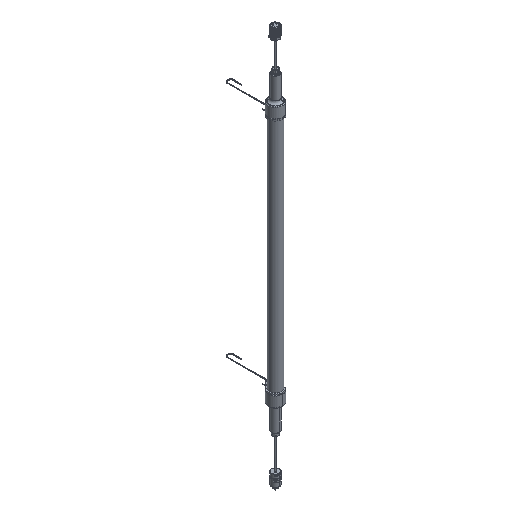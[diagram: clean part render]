
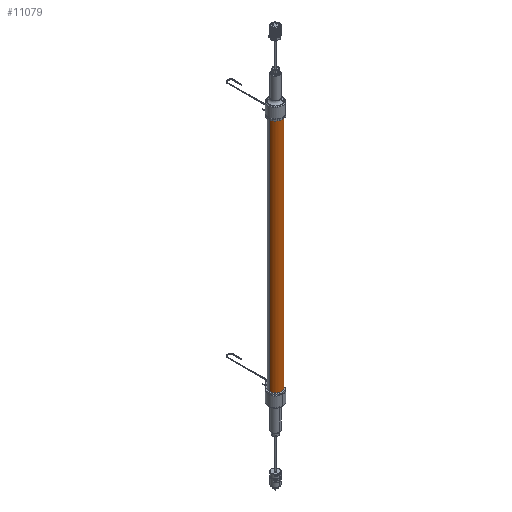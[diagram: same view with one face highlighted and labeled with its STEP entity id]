
A CAD part, isometric view. The second image highlights one B-rep face of the part: STEP entity #11079.
In plain terms, the highlighted cylindrical face has radius 28.575 mm (diameter 57.15 mm), a partial arc.
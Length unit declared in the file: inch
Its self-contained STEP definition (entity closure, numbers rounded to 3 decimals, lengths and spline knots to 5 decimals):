
#1009 = CARTESIAN_POINT ( 'NONE',  ( 1.125, 0., 49. ) ) ;
#1128 = VERTEX_POINT ( 'NONE', #1009 ) ;
#1887 = DIRECTION ( 'NONE',  ( 0., 0., 1. ) ) ;
#2344 = DIRECTION ( 'NONE',  ( 0., 0., -1. ) ) ;
#3478 = DIRECTION ( 'NONE',  ( 0., 0., -1. ) ) ;
#3486 = DIRECTION ( 'NONE',  ( 0., 0., -1. ) ) ;
#4939 = AXIS2_PLACEMENT_3D ( 'NONE', #5945, #3486, #27917 ) ;
#5945 = CARTESIAN_POINT ( 'NONE',  ( 0., 0., 49. ) ) ;
#6404 = CYLINDRICAL_SURFACE ( 'NONE', #4939, 1.125 ) ;
#7849 = AXIS2_PLACEMENT_3D ( 'NONE', #27319, #12600, #29776 ) ;
#9813 = LINE ( 'NONE', #13298, #22067 ) ;
#10681 = LINE ( 'NONE', #19428, #17144 ) ;
#11079 = ADVANCED_FACE ( 'NONE', ( #27068 ), #6404, .T. ) ;
#12209 = EDGE_CURVE ( 'NONE', #31405, #1128, #19673, .T. ) ;
#12231 = CARTESIAN_POINT ( 'NONE',  ( -1.125, 0., 49. ) ) ;
#12600 = DIRECTION ( 'NONE',  ( 0., 0., 1. ) ) ;
#12935 = CIRCLE ( 'NONE', #27583, 1.125 ) ;
#13298 = CARTESIAN_POINT ( 'NONE',  ( -1.125, 0., 49. ) ) ;
#16526 = CARTESIAN_POINT ( 'NONE',  ( 0., 0., 0. ) ) ;
#17144 = VECTOR ( 'NONE', #2344, 39.37008 ) ;
#18963 = DIRECTION ( 'NONE',  ( 1., 0., 0. ) ) ;
#19428 = CARTESIAN_POINT ( 'NONE',  ( 1.125, 0., 49. ) ) ;
#19673 = CIRCLE ( 'NONE', #7849, 1.125 ) ;
#22067 = VECTOR ( 'NONE', #3478, 39.37008 ) ;
#24115 = EDGE_CURVE ( 'NONE', #31405, #25005, #9813, .T. ) ;
#25005 = VERTEX_POINT ( 'NONE', #28046 ) ;
#27068 = FACE_OUTER_BOUND ( 'NONE', #31713, .T. ) ;
#27109 = VERTEX_POINT ( 'NONE', #31108 ) ;
#27319 = CARTESIAN_POINT ( 'NONE',  ( 0., 0., 49. ) ) ;
#27583 = AXIS2_PLACEMENT_3D ( 'NONE', #16526, #1887, #18963 ) ;
#27917 = DIRECTION ( 'NONE',  ( -1., 0., 0. ) ) ;
#27935 = EDGE_CURVE ( 'NONE', #1128, #27109, #10681, .T. ) ;
#28046 = CARTESIAN_POINT ( 'NONE',  ( -1.125, 0., 0. ) ) ;
#28455 = EDGE_CURVE ( 'NONE', #25005, #27109, #12935, .T. ) ;
#29171 = ORIENTED_EDGE ( 'NONE', *, *, #28455, .T. ) ;
#29776 = DIRECTION ( 'NONE',  ( 1., 0., 0. ) ) ;
#30371 = ORIENTED_EDGE ( 'NONE', *, *, #27935, .F. ) ;
#30630 = ORIENTED_EDGE ( 'NONE', *, *, #12209, .F. ) ;
#30996 = ORIENTED_EDGE ( 'NONE', *, *, #24115, .T. ) ;
#31108 = CARTESIAN_POINT ( 'NONE',  ( 1.125, 0., 0. ) ) ;
#31405 = VERTEX_POINT ( 'NONE', #12231 ) ;
#31713 = EDGE_LOOP ( 'NONE', ( #30371, #30630, #30996, #29171 ) ) ;
